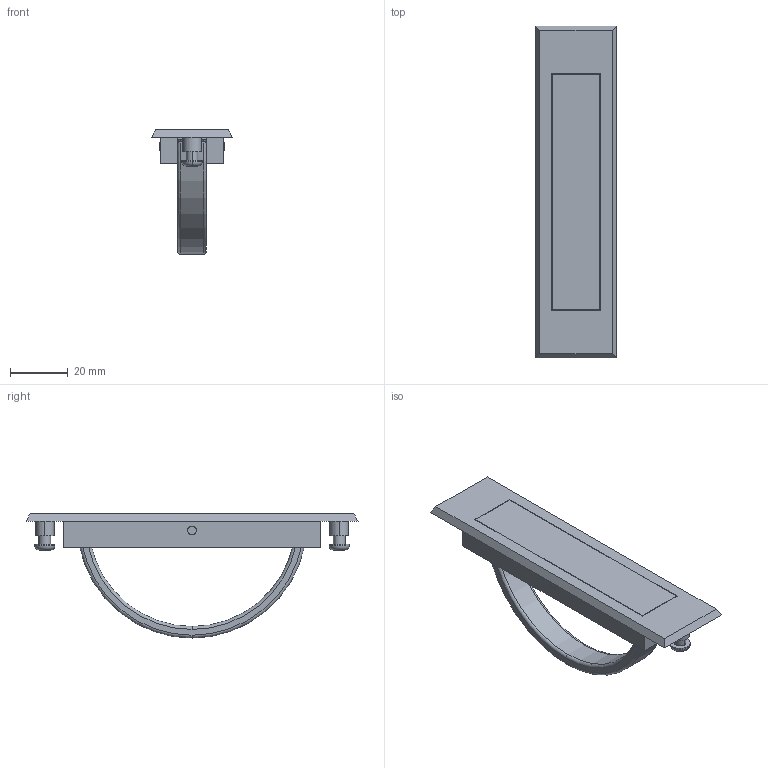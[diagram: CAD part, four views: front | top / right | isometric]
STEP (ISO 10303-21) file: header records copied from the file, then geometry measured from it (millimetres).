
FILE_DESCRIPTION (( 'STEP AP203' ), '1' );
FILE_NAME ('E17-517001.STEP', '2024-10-29T07:26:44', ( '' ), ( '' ), 'SwSTEP 2.0', 'SolidWorks 2021', '' );
FILE_SCHEMA (( 'CONFIG_CONTROL_DESIGN' ));
Length unit declared in the file: millimetre
Products named in the file (4): E17-517-1-2; E17-517-1-1; E17-517-螺絲; E17-517001
Assembly tree (4 placements, depth 2):
  E17-517001
    E17-517-1-1
    E17-517-1-2
    E17-517-螺絲  x2
Bounding box: 28 x 115 x 43 mm (x, y, z)
Volume: 19173.1 mm3; surface area: 15883.4 mm2
Topology: 4 solids, 4 shells, 140 faces, 355 edges, 226 vertices
Faces by surface type: plane 78, cylinder 38, torus 12, bspline 8, cone 4
Entity records: 4285 total; most frequent: CARTESIAN_POINT 1091, DIRECTION 577, ORIENTED_EDGE 574, EDGE_CURVE 287, AXIS2_PLACEMENT_3D 206, VERTEX_POINT 184, LINE 165, VECTOR 165
